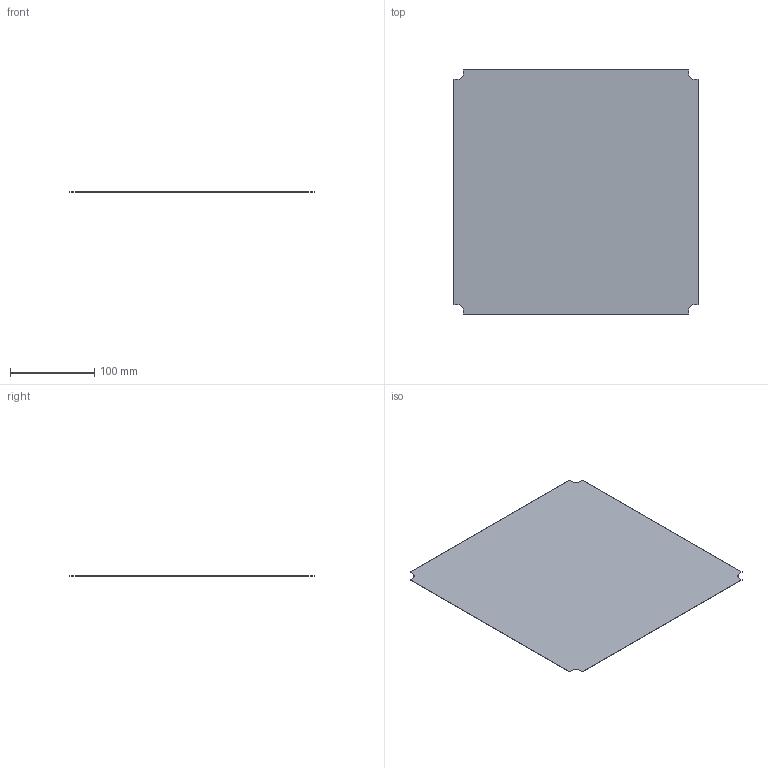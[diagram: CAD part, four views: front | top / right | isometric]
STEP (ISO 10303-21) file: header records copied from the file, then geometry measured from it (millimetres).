
FILE_DESCRIPTION(/* description */ (''),/* implementation_level */ '2;1');
FILE_NAME(/* name */ 'star wars imp light - light.step',/* time_stamp */ '2025-11-16T11:14:55+01:00',/* author */ (''),/* organization */ (''),/* preprocessor_version */ 'ST-DEVELOPER v20.1',/* originating_system */ 'Autodesk Translation Framework v14.21.0.0',/* authorisation */ '');
FILE_SCHEMA (('AUTOMOTIVE_DESIGN { 1 0 10303 214 3 1 1 }'));
Length unit declared in the file: millimetre
Products named in the file (1): star wars imp light - light
Bounding box: 290 x 290 x 0.4 mm (x, y, z)
Volume: 33450.4 mm3; surface area: 167710.4 mm2
Topology: 1 solids, 1 shells, 18 faces, 48 edges, 32 vertices
Faces by surface type: plane 14, cylinder 4
Entity records: 593 total; most frequent: CARTESIAN_POINT 99, ORIENTED_EDGE 96, DIRECTION 94, EDGE_CURVE 48, LINE 40, VECTOR 40, VERTEX_POINT 32, AXIS2_PLACEMENT_3D 27
